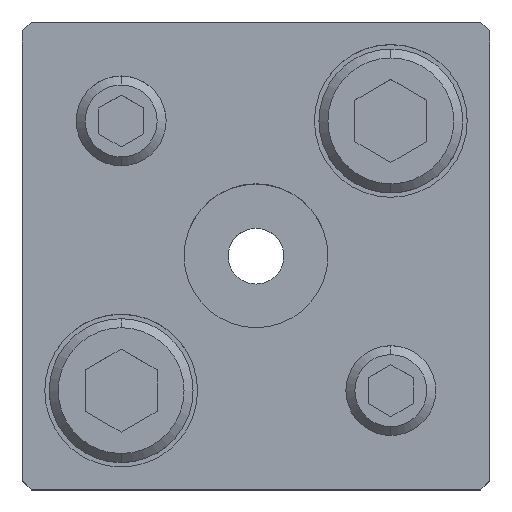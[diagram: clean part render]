
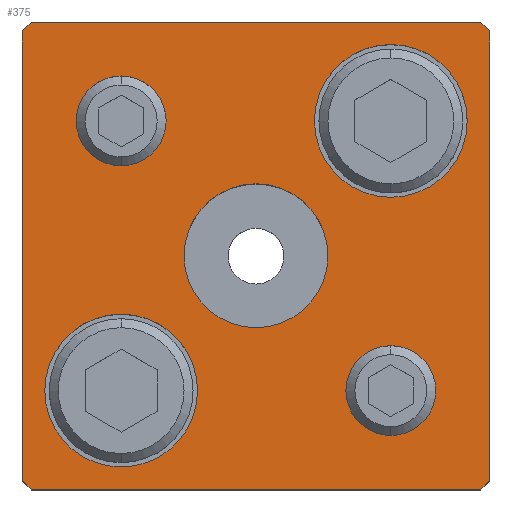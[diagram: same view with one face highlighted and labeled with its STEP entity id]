
A CAD part, top view. The second image highlights one B-rep face of the part: STEP entity #375.
In plain terms, the highlighted planar face has unit normal (0, 0, 1).
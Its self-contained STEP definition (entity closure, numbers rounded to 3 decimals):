
#139=PLANE('',#2873);
#201=FACE_BOUND('',#707,.T.);
#202=FACE_BOUND('',#708,.T.);
#203=FACE_BOUND('',#709,.T.);
#204=FACE_BOUND('',#710,.T.);
#205=FACE_BOUND('',#711,.T.);
#206=FACE_BOUND('',#712,.T.);
#375=ADVANCED_FACE('',(#201,#202,#203,#204,#205,#206),#139,.T.);
#707=EDGE_LOOP('',(#1261,#1262,#1263,#1264,#1265,#1266,#1267,#1268));
#708=EDGE_LOOP('',(#1269,#1270));
#709=EDGE_LOOP('',(#1271,#1272));
#710=EDGE_LOOP('',(#1273,#1274));
#711=EDGE_LOOP('',(#1275,#1276));
#712=EDGE_LOOP('',(#1277,#1278));
#872=CIRCLE('',#2831,5.);
#874=CIRCLE('',#2834,5.);
#876=CIRCLE('',#2837,5.);
#878=CIRCLE('',#2840,5.);
#896=CIRCLE('',#2867,8.5);
#897=CIRCLE('',#2868,8.5);
#898=CIRCLE('',#2869,8.5);
#899=CIRCLE('',#2870,8.5);
#900=CIRCLE('',#2871,8.);
#901=CIRCLE('',#2872,8.);
#1261=ORIENTED_EDGE('',*,*,#2078,.T.);
#1262=ORIENTED_EDGE('',*,*,#2079,.T.);
#1263=ORIENTED_EDGE('',*,*,#2080,.T.);
#1264=ORIENTED_EDGE('',*,*,#2081,.T.);
#1265=ORIENTED_EDGE('',*,*,#2082,.T.);
#1266=ORIENTED_EDGE('',*,*,#2083,.T.);
#1267=ORIENTED_EDGE('',*,*,#2084,.T.);
#1268=ORIENTED_EDGE('',*,*,#2085,.T.);
#1269=ORIENTED_EDGE('',*,*,#2086,.F.);
#1270=ORIENTED_EDGE('',*,*,#2087,.F.);
#1271=ORIENTED_EDGE('',*,*,#2088,.F.);
#1272=ORIENTED_EDGE('',*,*,#2089,.F.);
#1273=ORIENTED_EDGE('',*,*,#2052,.F.);
#1274=ORIENTED_EDGE('',*,*,#2048,.F.);
#1275=ORIENTED_EDGE('',*,*,#2046,.F.);
#1276=ORIENTED_EDGE('',*,*,#2042,.F.);
#1277=ORIENTED_EDGE('',*,*,#2090,.T.);
#1278=ORIENTED_EDGE('',*,*,#2091,.T.);
#1761=VERTEX_POINT('',#4141);
#1762=VERTEX_POINT('',#4142);
#1765=VERTEX_POINT('',#4153);
#1766=VERTEX_POINT('',#4154);
#1785=VERTEX_POINT('',#4213);
#1786=VERTEX_POINT('',#4214);
#1787=VERTEX_POINT('',#4216);
#1788=VERTEX_POINT('',#4218);
#1789=VERTEX_POINT('',#4220);
#1790=VERTEX_POINT('',#4222);
#1791=VERTEX_POINT('',#4224);
#1792=VERTEX_POINT('',#4226);
#1793=VERTEX_POINT('',#4229);
#1794=VERTEX_POINT('',#4230);
#1795=VERTEX_POINT('',#4233);
#1796=VERTEX_POINT('',#4234);
#1797=VERTEX_POINT('',#4237);
#1798=VERTEX_POINT('',#4238);
#2042=EDGE_CURVE('',#1761,#1762,#872,.T.);
#2046=EDGE_CURVE('',#1762,#1761,#874,.T.);
#2048=EDGE_CURVE('',#1765,#1766,#876,.T.);
#2052=EDGE_CURVE('',#1766,#1765,#878,.T.);
#2078=EDGE_CURVE('',#1785,#1786,#2360,.T.);
#2079=EDGE_CURVE('',#1786,#1787,#2361,.T.);
#2080=EDGE_CURVE('',#1787,#1788,#2362,.T.);
#2081=EDGE_CURVE('',#1788,#1789,#2363,.T.);
#2082=EDGE_CURVE('',#1789,#1790,#2364,.T.);
#2083=EDGE_CURVE('',#1790,#1791,#2365,.T.);
#2084=EDGE_CURVE('',#1791,#1792,#2366,.T.);
#2085=EDGE_CURVE('',#1792,#1785,#2367,.T.);
#2086=EDGE_CURVE('',#1793,#1794,#896,.T.);
#2087=EDGE_CURVE('',#1794,#1793,#897,.T.);
#2088=EDGE_CURVE('',#1795,#1796,#898,.T.);
#2089=EDGE_CURVE('',#1796,#1795,#899,.T.);
#2090=EDGE_CURVE('',#1797,#1798,#900,.T.);
#2091=EDGE_CURVE('',#1798,#1797,#901,.T.);
#2360=LINE('',#4212,#2580);
#2361=LINE('',#4215,#2581);
#2362=LINE('',#4217,#2582);
#2363=LINE('',#4219,#2583);
#2364=LINE('',#4221,#2584);
#2365=LINE('',#4223,#2585);
#2366=LINE('',#4225,#2586);
#2367=LINE('',#4227,#2587);
#2580=VECTOR('',#3399,1.);
#2581=VECTOR('',#3400,1.);
#2582=VECTOR('',#3401,1.);
#2583=VECTOR('',#3402,1.);
#2584=VECTOR('',#3403,1.);
#2585=VECTOR('',#3404,1.);
#2586=VECTOR('',#3405,1.);
#2587=VECTOR('',#3406,1.);
#2831=AXIS2_PLACEMENT_3D('',#4140,#3315,#3316);
#2834=AXIS2_PLACEMENT_3D('',#4149,#3323,#3324);
#2837=AXIS2_PLACEMENT_3D('',#4152,#3329,#3330);
#2840=AXIS2_PLACEMENT_3D('',#4161,#3337,#3338);
#2867=AXIS2_PLACEMENT_3D('',#4228,#3407,#3408);
#2868=AXIS2_PLACEMENT_3D('',#4231,#3409,#3410);
#2869=AXIS2_PLACEMENT_3D('',#4232,#3411,#3412);
#2870=AXIS2_PLACEMENT_3D('',#4235,#3413,#3414);
#2871=AXIS2_PLACEMENT_3D('',#4236,#3415,#3416);
#2872=AXIS2_PLACEMENT_3D('',#4239,#3417,#3418);
#2873=AXIS2_PLACEMENT_3D('',#4240,#3419,#3420);
#3315=DIRECTION('',(0.,0.,1.));
#3316=DIRECTION('',(1.,0.,0.));
#3323=DIRECTION('',(0.,0.,1.));
#3324=DIRECTION('',(-1.,0.,0.));
#3329=DIRECTION('',(0.,0.,1.));
#3330=DIRECTION('',(1.,0.,0.));
#3337=DIRECTION('',(0.,0.,1.));
#3338=DIRECTION('',(-1.,0.,0.));
#3399=DIRECTION('',(0.,1.,0.));
#3400=DIRECTION('',(-0.707,0.707,0.));
#3401=DIRECTION('',(-1.,0.,0.));
#3402=DIRECTION('',(-0.707,-0.707,0.));
#3403=DIRECTION('',(0.,-1.,0.));
#3404=DIRECTION('',(0.707,-0.707,0.));
#3405=DIRECTION('',(1.,0.,0.));
#3406=DIRECTION('',(0.707,0.707,0.));
#3407=DIRECTION('',(0.,0.,1.));
#3408=DIRECTION('',(1.,0.,0.));
#3409=DIRECTION('',(0.,0.,1.));
#3410=DIRECTION('',(-1.,0.,0.));
#3411=DIRECTION('',(0.,0.,1.));
#3412=DIRECTION('',(1.,0.,0.));
#3413=DIRECTION('',(0.,0.,1.));
#3414=DIRECTION('',(-1.,0.,0.));
#3415=DIRECTION('',(0.,0.,-1.));
#3416=DIRECTION('',(-1.,0.,0.));
#3417=DIRECTION('',(0.,0.,-1.));
#3418=DIRECTION('',(1.,0.,0.));
#3419=DIRECTION('',(0.,0.,1.));
#3420=DIRECTION('',(0.,-1.,0.));
#4140=CARTESIAN_POINT('',(15.,-15.,35.));
#4141=CARTESIAN_POINT('',(15.,-10.,35.));
#4142=CARTESIAN_POINT('',(15.,-20.,35.));
#4149=CARTESIAN_POINT('',(15.,-15.,35.));
#4152=CARTESIAN_POINT('',(-15.,15.,35.));
#4153=CARTESIAN_POINT('',(-15.,20.,35.));
#4154=CARTESIAN_POINT('',(-15.,10.,35.));
#4161=CARTESIAN_POINT('',(-15.,15.,35.));
#4212=CARTESIAN_POINT('',(26.,25.,35.));
#4213=CARTESIAN_POINT('',(26.,-25.,35.));
#4214=CARTESIAN_POINT('',(26.,25.,35.));
#4215=CARTESIAN_POINT('',(25.,26.,35.));
#4216=CARTESIAN_POINT('',(25.,26.,35.));
#4217=CARTESIAN_POINT('',(-25.,26.,35.));
#4218=CARTESIAN_POINT('',(-25.,26.,35.));
#4219=CARTESIAN_POINT('',(-26.,25.,35.));
#4220=CARTESIAN_POINT('',(-26.,25.,35.));
#4221=CARTESIAN_POINT('',(-26.,-25.,35.));
#4222=CARTESIAN_POINT('',(-26.,-25.,35.));
#4223=CARTESIAN_POINT('',(-25.,-26.,35.));
#4224=CARTESIAN_POINT('',(-25.,-26.,35.));
#4225=CARTESIAN_POINT('',(25.,-26.,35.));
#4226=CARTESIAN_POINT('',(25.,-26.,35.));
#4227=CARTESIAN_POINT('',(26.,-25.,35.));
#4228=CARTESIAN_POINT('',(-15.,-15.,35.));
#4229=CARTESIAN_POINT('',(-15.,-6.5,35.));
#4230=CARTESIAN_POINT('',(-15.,-23.5,35.));
#4231=CARTESIAN_POINT('',(-15.,-15.,35.));
#4232=CARTESIAN_POINT('',(15.,15.,35.));
#4233=CARTESIAN_POINT('',(15.,23.5,35.));
#4234=CARTESIAN_POINT('',(15.,6.5,35.));
#4235=CARTESIAN_POINT('',(15.,15.,35.));
#4236=CARTESIAN_POINT('',(0.,0.,35.));
#4237=CARTESIAN_POINT('',(0.,8.,35.));
#4238=CARTESIAN_POINT('',(0.,-8.,35.));
#4239=CARTESIAN_POINT('',(0.,0.,35.));
#4240=CARTESIAN_POINT('',(26.,-25.,35.));
